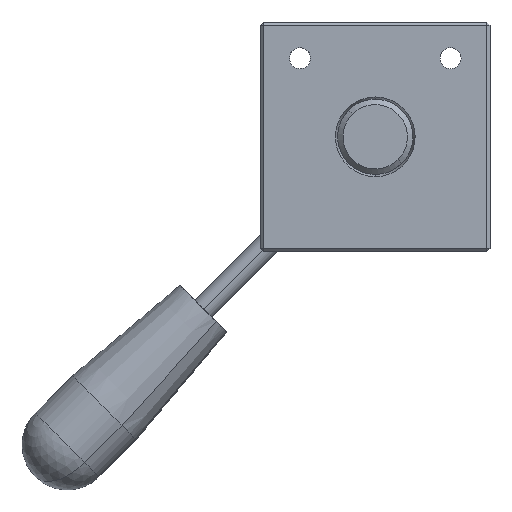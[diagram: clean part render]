
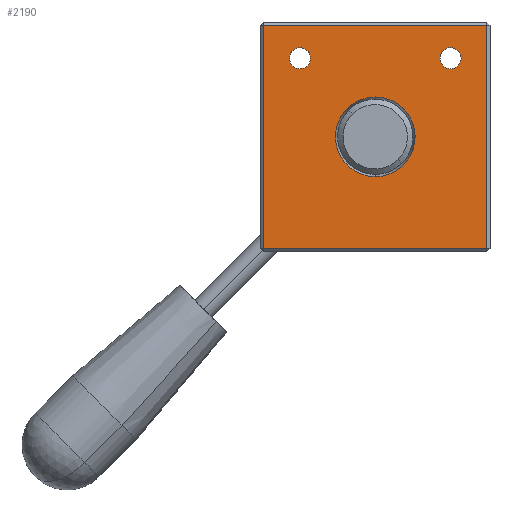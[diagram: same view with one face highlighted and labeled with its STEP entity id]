
A CAD part, front view. The second image highlights one B-rep face of the part: STEP entity #2190.
In plain terms, the highlighted planar face has unit normal (0, -1, 0).
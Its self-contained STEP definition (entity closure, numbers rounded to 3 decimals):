
#151 = CARTESIAN_POINT ( 'NONE',  ( 0., -24., 13.228 ) ) ;
#180 = VECTOR ( 'NONE', #1129, 1000. ) ;
#181 = ORIENTED_EDGE ( 'NONE', *, *, #3238, .T. ) ;
#221 = CARTESIAN_POINT ( 'NONE',  ( 25., -24., 26.1 ) ) ;
#264 = EDGE_LOOP ( 'NONE', ( #1718, #2924 ) ) ;
#315 = ORIENTED_EDGE ( 'NONE', *, *, #1343, .T. ) ;
#318 = EDGE_CURVE ( 'NONE', #2456, #3621, #3085, .T. ) ;
#374 = CIRCLE ( 'NONE', #3492, 13.228 ) ;
#393 = DIRECTION ( 'NONE',  ( 1., 0., 0. ) ) ;
#476 = LINE ( 'NONE', #704, #2310 ) ;
#485 = CIRCLE ( 'NONE', #3347, 3.5 ) ;
#497 = CARTESIAN_POINT ( 'NONE',  ( 38.1, -24., -38.1 ) ) ;
#516 = FACE_BOUND ( 'NONE', #3093, .T. ) ;
#659 = VERTEX_POINT ( 'NONE', #151 ) ;
#694 = CARTESIAN_POINT ( 'NONE',  ( -25., -24., 26.1 ) ) ;
#704 = CARTESIAN_POINT ( 'NONE',  ( 37.1, -24., 38.1 ) ) ;
#708 = EDGE_CURVE ( 'NONE', #2414, #1366, #476, .T. ) ;
#727 = ORIENTED_EDGE ( 'NONE', *, *, #3874, .T. ) ;
#771 = VERTEX_POINT ( 'NONE', #3297 ) ;
#826 = FACE_OUTER_BOUND ( 'NONE', #1578, .T. ) ;
#895 = AXIS2_PLACEMENT_3D ( 'NONE', #221, #3948, #1820 ) ;
#986 = DIRECTION ( 'NONE',  ( 0., 0., 1. ) ) ;
#1032 = DIRECTION ( 'NONE',  ( 0., 1., 0. ) ) ;
#1094 = CARTESIAN_POINT ( 'NONE',  ( -25., -24., 22.6 ) ) ;
#1129 = DIRECTION ( 'NONE',  ( -1., 0., 0. ) ) ;
#1158 = ORIENTED_EDGE ( 'NONE', *, *, #708, .T. ) ;
#1170 = DIRECTION ( 'NONE',  ( 0., 1., 0. ) ) ;
#1290 = EDGE_CURVE ( 'NONE', #659, #3600, #374, .T. ) ;
#1308 = DIRECTION ( 'NONE',  ( 0., 0., -1. ) ) ;
#1343 = EDGE_CURVE ( 'NONE', #3294, #3961, #1606, .T. ) ;
#1353 = AXIS2_PLACEMENT_3D ( 'NONE', #497, #3658, #3003 ) ;
#1366 = VERTEX_POINT ( 'NONE', #1409 ) ;
#1386 = CARTESIAN_POINT ( 'NONE',  ( 0., -24., 0. ) ) ;
#1390 = EDGE_CURVE ( 'NONE', #2430, #771, #2464, .T. ) ;
#1409 = CARTESIAN_POINT ( 'NONE',  ( 37.1, -24., 37.1 ) ) ;
#1488 = ORIENTED_EDGE ( 'NONE', *, *, #3582, .T. ) ;
#1578 = EDGE_LOOP ( 'NONE', ( #1873, #3947, #1488, #1158 ) ) ;
#1606 = CIRCLE ( 'NONE', #1934, 3.5 ) ;
#1611 = CARTESIAN_POINT ( 'NONE',  ( 25., -24., 22.6 ) ) ;
#1710 = DIRECTION ( 'NONE',  ( 0., 1., 0. ) ) ;
#1716 = CARTESIAN_POINT ( 'NONE',  ( -37.1, -24., -37.1 ) ) ;
#1718 = ORIENTED_EDGE ( 'NONE', *, *, #3657, .T. ) ;
#1733 = CARTESIAN_POINT ( 'NONE',  ( -37.1, -24., 37.1 ) ) ;
#1755 = DIRECTION ( 'NONE',  ( 0., 0., -1. ) ) ;
#1758 = PLANE ( 'NONE',  #1353 ) ;
#1820 = DIRECTION ( 'NONE',  ( 0., 0., 1. ) ) ;
#1873 = ORIENTED_EDGE ( 'NONE', *, *, #2261, .T. ) ;
#1918 = VECTOR ( 'NONE', #393, 1000. ) ;
#1934 = AXIS2_PLACEMENT_3D ( 'NONE', #3810, #1710, #2938 ) ;
#1950 = DIRECTION ( 'NONE',  ( 0., 0., 1. ) ) ;
#2116 = CIRCLE ( 'NONE', #3673, 3.5 ) ;
#2190 = ADVANCED_FACE ( 'NONE', ( #3532, #826, #3957, #516 ), #1758, .T. ) ;
#2225 = CARTESIAN_POINT ( 'NONE',  ( -37.1, -24., -38.1 ) ) ;
#2250 = VECTOR ( 'NONE', #1308, 1000. ) ;
#2261 = EDGE_CURVE ( 'NONE', #1366, #2456, #2647, .T. ) ;
#2310 = VECTOR ( 'NONE', #1950, 1000. ) ;
#2414 = VERTEX_POINT ( 'NONE', #2493 ) ;
#2430 = VERTEX_POINT ( 'NONE', #1611 ) ;
#2456 = VERTEX_POINT ( 'NONE', #1733 ) ;
#2464 = CIRCLE ( 'NONE', #895, 3.5 ) ;
#2493 = CARTESIAN_POINT ( 'NONE',  ( 37.1, -24., -37.1 ) ) ;
#2533 = DIRECTION ( 'NONE',  ( 0., 1., 0. ) ) ;
#2575 = DIRECTION ( 'NONE',  ( 0., 0., 1. ) ) ;
#2643 = CARTESIAN_POINT ( 'NONE',  ( 0., -24., 0. ) ) ;
#2647 = LINE ( 'NONE', #2727, #180 ) ;
#2706 = AXIS2_PLACEMENT_3D ( 'NONE', #2643, #1170, #1755 ) ;
#2727 = CARTESIAN_POINT ( 'NONE',  ( -38.1, -24., 37.1 ) ) ;
#2924 = ORIENTED_EDGE ( 'NONE', *, *, #1290, .T. ) ;
#2938 = DIRECTION ( 'NONE',  ( 0., 0., 1. ) ) ;
#2999 = CARTESIAN_POINT ( 'NONE',  ( 0., -24., -13.228 ) ) ;
#3003 = DIRECTION ( 'NONE',  ( 0., 0., -1. ) ) ;
#3085 = LINE ( 'NONE', #2225, #2250 ) ;
#3093 = EDGE_LOOP ( 'NONE', ( #181, #3682 ) ) ;
#3095 = CIRCLE ( 'NONE', #2706, 13.228 ) ;
#3187 = CARTESIAN_POINT ( 'NONE',  ( 38.1, -24., -37.1 ) ) ;
#3235 = CARTESIAN_POINT ( 'NONE',  ( 25., -24., 26.1 ) ) ;
#3238 = EDGE_CURVE ( 'NONE', #771, #2430, #485, .T. ) ;
#3265 = DIRECTION ( 'NONE',  ( 0., 1., 0. ) ) ;
#3294 = VERTEX_POINT ( 'NONE', #1094 ) ;
#3297 = CARTESIAN_POINT ( 'NONE',  ( 25., -24., 29.6 ) ) ;
#3347 = AXIS2_PLACEMENT_3D ( 'NONE', #3235, #1032, #986 ) ;
#3492 = AXIS2_PLACEMENT_3D ( 'NONE', #1386, #3265, #3589 ) ;
#3532 = FACE_BOUND ( 'NONE', #264, .T. ) ;
#3544 = EDGE_LOOP ( 'NONE', ( #727, #315 ) ) ;
#3582 = EDGE_CURVE ( 'NONE', #3621, #2414, #3772, .T. ) ;
#3589 = DIRECTION ( 'NONE',  ( 0., 0., -1. ) ) ;
#3600 = VERTEX_POINT ( 'NONE', #2999 ) ;
#3621 = VERTEX_POINT ( 'NONE', #1716 ) ;
#3657 = EDGE_CURVE ( 'NONE', #3600, #659, #3095, .T. ) ;
#3658 = DIRECTION ( 'NONE',  ( 0., -1., 0. ) ) ;
#3673 = AXIS2_PLACEMENT_3D ( 'NONE', #694, #2533, #2575 ) ;
#3682 = ORIENTED_EDGE ( 'NONE', *, *, #1390, .T. ) ;
#3772 = LINE ( 'NONE', #3187, #1918 ) ;
#3810 = CARTESIAN_POINT ( 'NONE',  ( -25., -24., 26.1 ) ) ;
#3874 = EDGE_CURVE ( 'NONE', #3961, #3294, #2116, .T. ) ;
#3947 = ORIENTED_EDGE ( 'NONE', *, *, #318, .T. ) ;
#3948 = DIRECTION ( 'NONE',  ( 0., 1., 0. ) ) ;
#3957 = FACE_BOUND ( 'NONE', #3544, .T. ) ;
#3961 = VERTEX_POINT ( 'NONE', #3985 ) ;
#3985 = CARTESIAN_POINT ( 'NONE',  ( -25., -24., 29.6 ) ) ;
